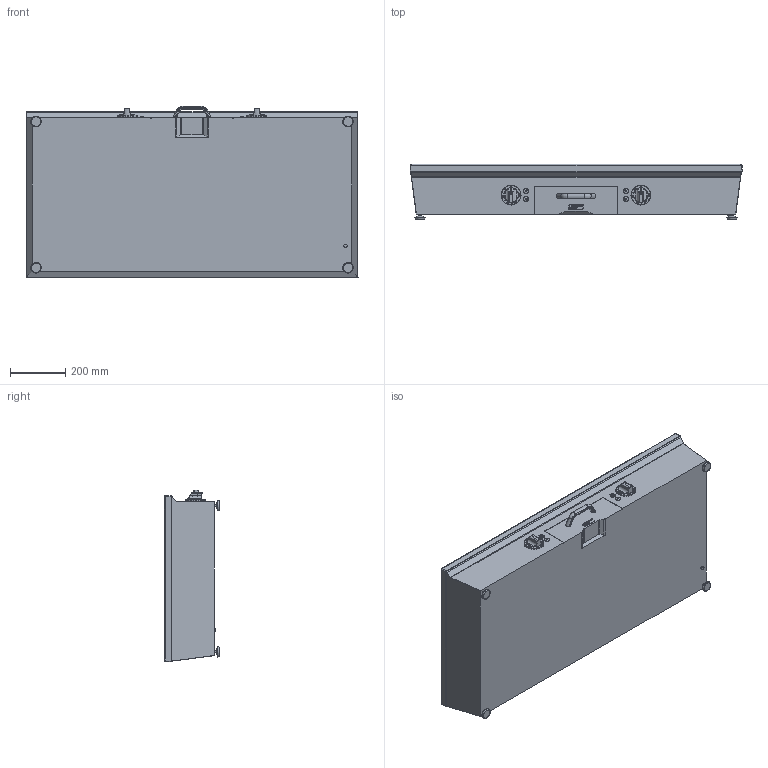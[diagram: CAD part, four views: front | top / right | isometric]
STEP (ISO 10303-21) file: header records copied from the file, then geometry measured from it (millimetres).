
FILE_DESCRIPTION (( 'STEP AP214' ), '1' );
FILE_NAME ('MS-G-120-RE.STEP', '2026-04-01T07:57:03', ( '' ), ( '' ), 'SwSTEP 2.0', 'SolidWorks 2023', '' );
FILE_SCHEMA (( 'AUTOMOTIVE_DESIGN' ));
Length unit declared in the file: millimetre
Products named in the file (1): MS-G-120-RE
Bounding box: 1200 x 200 x 620.48 mm (x, y, z)
Volume: 96834483.8 mm3; surface area: 2277319.5 mm2
Topology: 11 solids, 12 shells, 1042 faces, 2643 edges, 1722 vertices
Faces by surface type: plane 536, bspline 290, cylinder 170, torus 30, cone 16
Full cylindrical faces by diameter (mm): 7.09 x4, 9.09 x4, 12 x1, 13 x2, 15 x2, 17 x4, 19 x4, 44.5 x2, 60 x2, 69.8 x2, 70 x2, 72 x2
Entity records: 35522 total; most frequent: CARTESIAN_POINT 13015, ORIENTED_EDGE 5108, DIRECTION 3654, EDGE_CURVE 2554, VERTEX_POINT 1684, VECTOR 1512, LINE 1512, EDGE_LOOP 1192
